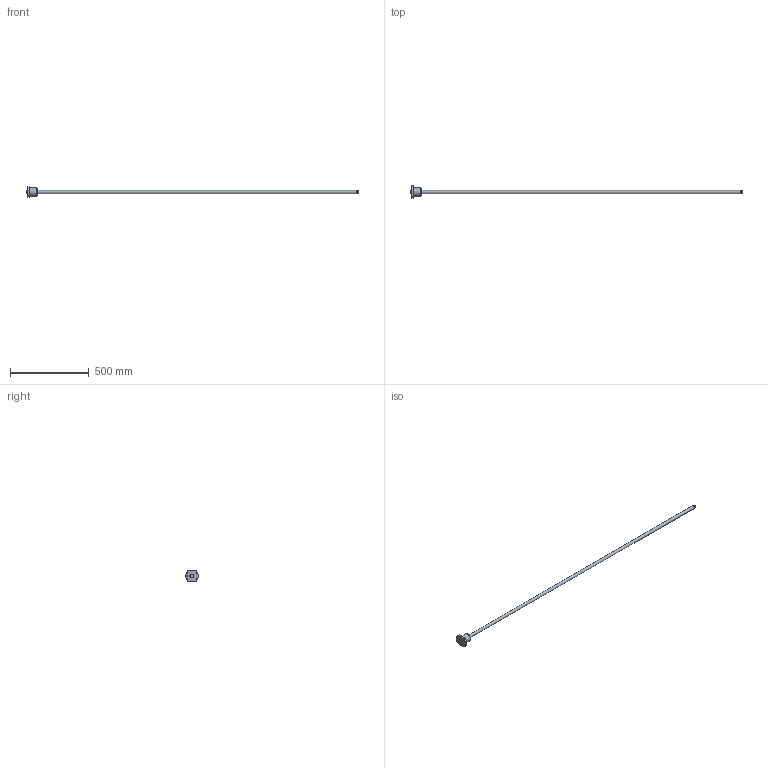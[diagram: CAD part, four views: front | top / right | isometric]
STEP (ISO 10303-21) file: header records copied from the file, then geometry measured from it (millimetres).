
FILE_DESCRIPTION( ( 'STEP AP203' ), ' ' );
FILE_NAME( 'p:/temp/worker_16/3916_4020/app_53_12018011810411199542560818fa3fd_000000_00_00_000000/format_0/BTK 2010V-2.6ZZ+2112LT_20310.stp', '2018-01-18T09:41:12', ( '' ), ( '' ), ' ', 'PARTsolutions', ' ' );
FILE_SCHEMA( ( 'CONFIG_CONTROL_DESIGN' ) );
Length unit declared in the file: millimetre
Products named in the file (3): BTK 2010V-2.6ZZ+2112LT_20310; _BTK 2010V-2.62031 Shaft; _BTK 2010V-2.6ZZ Nut
Assembly tree (2 placements, depth 2):
  BTK 2010V-2.6ZZ+2112LT_20310
    _BTK 2010V-2.62031 Shaft
    _BTK 2010V-2.6ZZ Nut
Bounding box: 2112 x 81.86 x 64 mm (x, y, z)
Volume: 798505.2 mm3; surface area: 158988.6 mm2
Topology: 2 solids, 2 shells, 39 faces, 84 edges, 55 vertices
Faces by surface type: cylinder 17, plane 14, cone 8
Full cylindrical faces by diameter (mm): 4.917 x1, 6.6 x4, 16 x2, 20 x4, 24 x2, 46.8 x1, 52 x1
Entity records: 1198 total; most frequent: CARTESIAN_POINT 299, DIRECTION 174, ORIENTED_EDGE 122, AXIS2_PLACEMENT_3D 82, EDGE_LOOP 76, EDGE_CURVE 61, FACE_OUTER_BOUND 54, VERTEX_POINT 51
